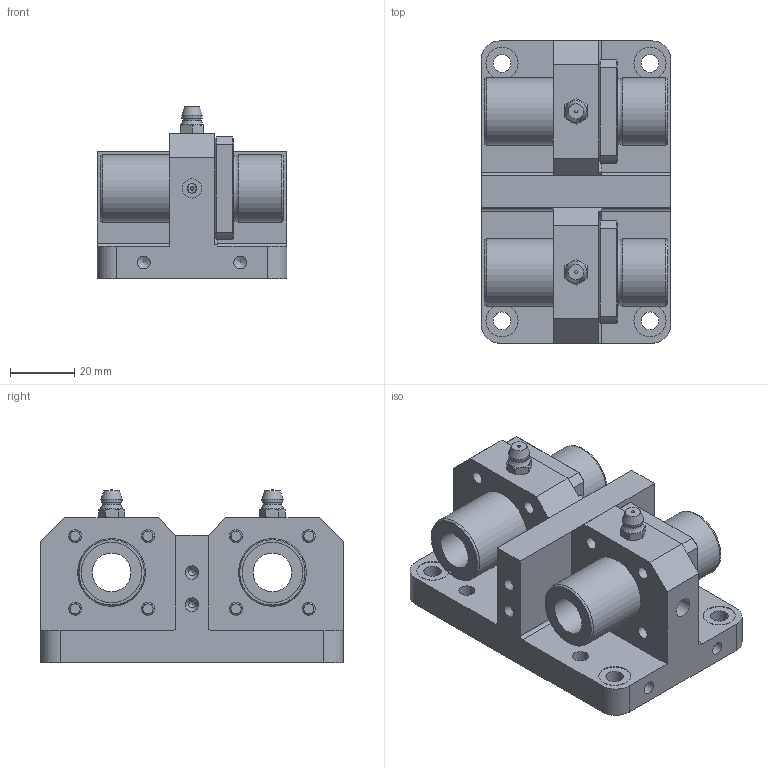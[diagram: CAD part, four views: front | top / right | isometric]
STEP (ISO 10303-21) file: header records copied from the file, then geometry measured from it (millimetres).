
FILE_DESCRIPTION((''),'2;1');
FILE_NAME('D:\製品 (図面)\カタログ用3D\リニアベアリング関連\STEP形式\LUFD\LUFD12.stp','2010-07-29T14:32:45',('Tsuchiya'),(''),'Autodesk Inventor 10','Autodesk Inventor 10','');
FILE_SCHEMA(('AUTOMOTIVE_DESIGN { 1 0 10303 214 1 1 1 1 }'));
Length unit declared in the file: millimetre
Products named in the file (4): LUFD12; LUFD121; LUFD122; LUFD123
Assembly tree (3 placements, depth 2):
  LUFD12
    LUFD121
    LUFD122
    LUFD123
Bounding box: 59 x 94 x 53.8 mm (x, y, z)
Volume: 133933.4 mm3; surface area: 47401.5 mm2
Topology: 13 solids, 13 shells, 382 faces, 858 edges, 542 vertices
Faces by surface type: plane 160, bspline 75, cylinder 71, cone 60, torus 12, sphere 4
Full cylindrical faces by diameter (mm): 3 x3, 4 x12, 5 x2, 5.5 x2, 6 x4, 7 x8, 10 x2, 12 x2, 18.8 x4, 21 x7
Entity records: 11594 total; most frequent: CARTESIAN_POINT 4144, DIRECTION 1430, ORIENTED_EDGE 1344, EDGE_CURVE 672, EDGE_LOOP 632, AXIS2_PLACEMENT_3D 592, VERTEX_POINT 502, FACE_OUTER_BOUND 382
